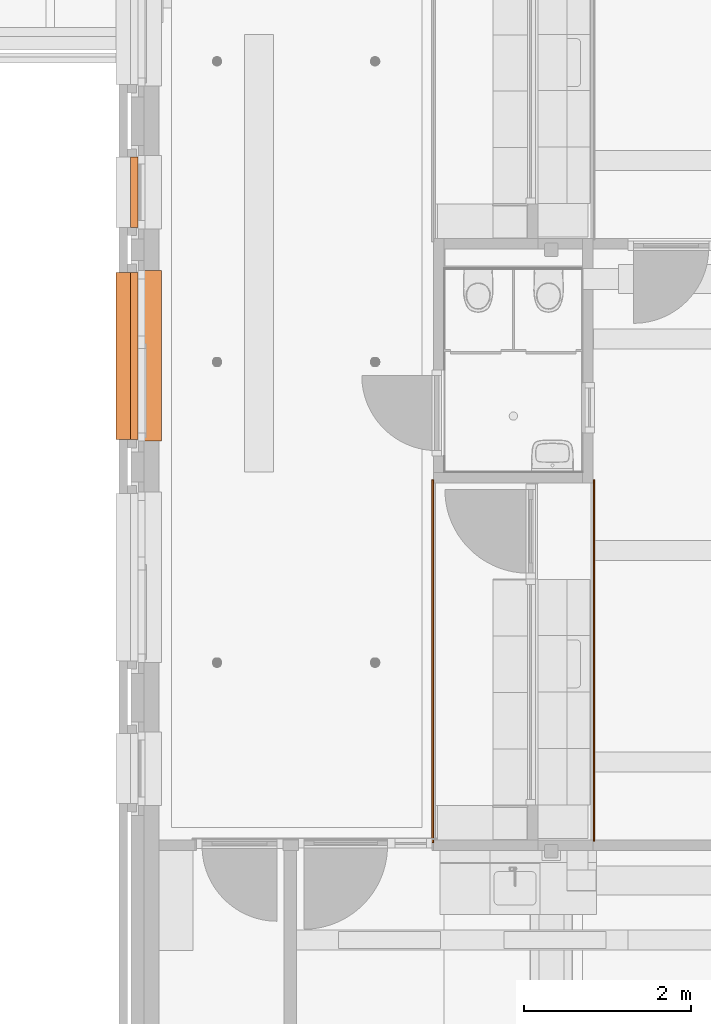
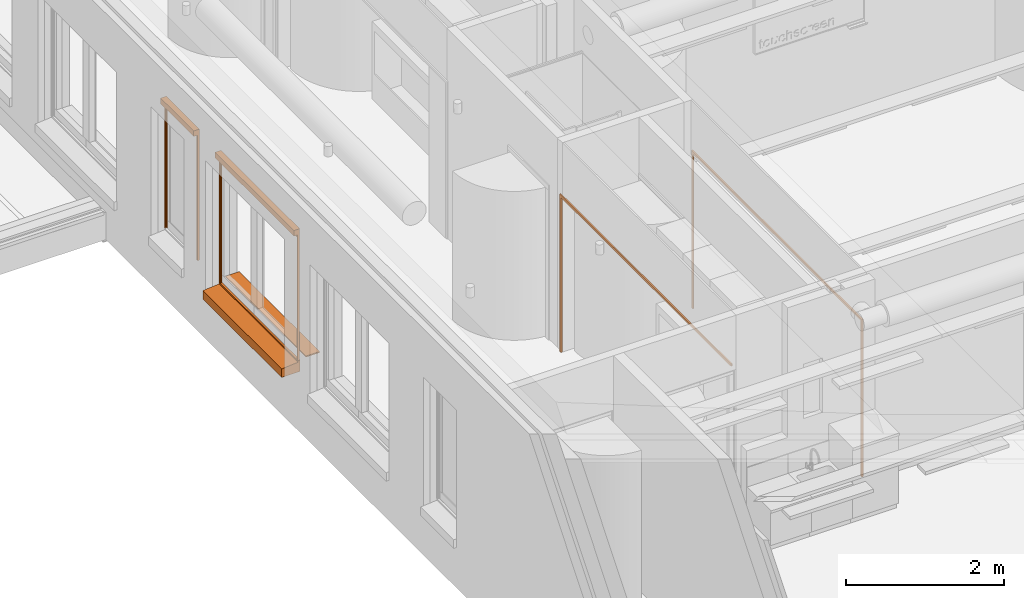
# One storey, part 99 of 128: 6 proxies.
"""IFC2X3 building model written with IfcOpenShell, lengths in millimetres."""

from ifc_helpers import new_model, entity, si_unit, converted_unit, derived_unit, direction, frame, frame_2d, origin, origin_2d_with_axis, place, context, subcontext, project, spatial, polyline, circle_curve, parameter, trimmed, segment, composite_curve, rectangle, outline, extrude, source, transform, mapped, material, material_list, type_object, type_shapes, element, save


model = new_model("IFC2X3")

# Units and contexts
model_context = context("Model", 3, precision=0.01, world=origin(), true_north=direction((6.123031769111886e-17, 1.0)))
body_context = subcontext(model_context, "Body", "Model", "MODEL_VIEW")
ifc_project = project(units=[si_unit("LENGTHUNIT", "METRE", prefix="MILLI"), si_unit("AREAUNIT", "SQUARE_METRE"), si_unit("VOLUMEUNIT", "CUBIC_METRE"), converted_unit("PLANEANGLEUNIT", "DEGREE", entity("IfcRatioMeasure", 0.017453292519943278), si_unit("PLANEANGLEUNIT", "RADIAN"), dimensions=[0, 0, 0, 0, 0, 0, 0]), si_unit("MASSUNIT", "GRAM", prefix="KILO"), derived_unit("MASSDENSITYUNIT", [(si_unit("MASSUNIT", "GRAM", prefix="KILO"), 1), (si_unit("LENGTHUNIT", "METRE"), -3)]), derived_unit("IONCONCENTRATIONUNIT", [(si_unit("MASSUNIT", "GRAM", prefix="KILO"), 1), (si_unit("LENGTHUNIT", "METRE"), -3)]), derived_unit("MOMENTOFINERTIAUNIT", [(si_unit("LENGTHUNIT", "METRE"), 4)]), si_unit("TIMEUNIT", "SECOND"), si_unit("FREQUENCYUNIT", "HERTZ"), si_unit("THERMODYNAMICTEMPERATUREUNIT", "DEGREE_CELSIUS"), derived_unit("THERMALTRANSMITTANCEUNIT", [(si_unit("MASSUNIT", "GRAM", prefix="KILO"), 1), (si_unit("THERMODYNAMICTEMPERATUREUNIT", "KELVIN"), -1), (si_unit("TIMEUNIT", "SECOND"), -3)]), derived_unit("THERMALCONDUCTANCEUNIT", [(si_unit("MASSUNIT", "GRAM", prefix="KILO"), 1), (si_unit("THERMODYNAMICTEMPERATUREUNIT", "KELVIN"), -1), (si_unit("TIMEUNIT", "SECOND"), -3), (si_unit("LENGTHUNIT", "METRE"), 1)]), derived_unit("VOLUMETRICFLOWRATEUNIT", [(si_unit("LENGTHUNIT", "METRE"), 3), (si_unit("TIMEUNIT", "SECOND"), -1)]), derived_unit("MASSFLOWRATEUNIT", [(si_unit("MASSUNIT", "GRAM", prefix="KILO"), 1), (si_unit("TIMEUNIT", "SECOND"), -1)]), derived_unit("ROTATIONALFREQUENCYUNIT", [(si_unit("TIMEUNIT", "SECOND"), -1)]), si_unit("ELECTRICCURRENTUNIT", "AMPERE"), si_unit("ELECTRICVOLTAGEUNIT", "VOLT"), si_unit("POWERUNIT", "WATT"), si_unit("FORCEUNIT", "NEWTON", prefix="KILO"), si_unit("ILLUMINANCEUNIT", "LUX"), si_unit("LUMINOUSFLUXUNIT", "LUMEN"), si_unit("LUMINOUSINTENSITYUNIT", "CANDELA"), derived_unit("USERDEFINED", [(si_unit("MASSUNIT", "GRAM", prefix="KILO"), -1), (si_unit("LENGTHUNIT", "METRE"), -2), (si_unit("TIMEUNIT", "SECOND"), 3), (si_unit("LUMINOUSFLUXUNIT", "LUMEN"), 1)]), derived_unit("USERDEFINED", [(si_unit("MASSUNIT", "GRAM", prefix="KILO"), 1), (si_unit("TIMEUNIT", "SECOND"), -3), (si_unit("LENGTHUNIT", "METRE"), 3), (si_unit("ELECTRICCURRENTUNIT", "AMPERE"), -2)]), derived_unit("SOUNDPOWERUNIT", [(si_unit("MASSUNIT", "GRAM", prefix="KILO"), 1), (si_unit("TIMEUNIT", "SECOND"), -3), (si_unit("LENGTHUNIT", "METRE"), 2)]), derived_unit("SOUNDPRESSUREUNIT", [(si_unit("MASSUNIT", "GRAM", prefix="KILO"), 1), (si_unit("LENGTHUNIT", "METRE"), -1), (si_unit("TIMEUNIT", "SECOND"), -2)]), derived_unit("LINEARVELOCITYUNIT", [(si_unit("LENGTHUNIT", "METRE"), 1), (si_unit("TIMEUNIT", "SECOND"), -1)]), si_unit("PRESSUREUNIT", "PASCAL"), derived_unit("USERDEFINED", [(si_unit("MASSUNIT", "GRAM", prefix="KILO"), 1), (si_unit("LENGTHUNIT", "METRE"), -2), (si_unit("TIMEUNIT", "SECOND"), -2)]), derived_unit("LINEARFORCEUNIT", [(si_unit("MASSUNIT", "GRAM", prefix="KILO"), 1), (si_unit("TIMEUNIT", "SECOND"), -2)]), derived_unit("PLANARFORCEUNIT", [(si_unit("MASSUNIT", "GRAM", prefix="KILO"), 1), (si_unit("LENGTHUNIT", "METRE"), -1), (si_unit("TIMEUNIT", "SECOND"), -2)]), derived_unit("SPECIFICHEATCAPACITYUNIT", [(si_unit("THERMODYNAMICTEMPERATUREUNIT", "KELVIN"), -1), (si_unit("LENGTHUNIT", "METRE"), 2), (si_unit("TIMEUNIT", "SECOND"), -2)]), derived_unit("HEATINGVALUEUNIT", [(si_unit("LENGTHUNIT", "METRE"), 2), (si_unit("TIMEUNIT", "SECOND"), -2)]), derived_unit("VAPORPERMEABILITYUNIT", [(si_unit("LENGTHUNIT", "METRE"), -1), (si_unit("TIMEUNIT", "SECOND"), 1)]), derived_unit("DYNAMICVISCOSITYUNIT", [(si_unit("MASSUNIT", "GRAM", prefix="KILO"), 1), (si_unit("TIMEUNIT", "SECOND"), -1), (si_unit("LENGTHUNIT", "METRE"), -1)]), derived_unit("THERMALEXPANSIONCOEFFICIENTUNIT", [(si_unit("THERMODYNAMICTEMPERATUREUNIT", "KELVIN"), -1)]), derived_unit("MODULUSOFELASTICITYUNIT", [(si_unit("MASSUNIT", "GRAM", prefix="KILO"), 1), (si_unit("LENGTHUNIT", "METRE"), -1), (si_unit("TIMEUNIT", "SECOND"), -2)]), derived_unit("ISOTHERMALMOISTURECAPACITYUNIT", [(si_unit("LENGTHUNIT", "METRE"), 3), (si_unit("MASSUNIT", "GRAM", prefix="KILO"), -1)]), derived_unit("MOISTUREDIFFUSIVITYUNIT", [(si_unit("TIMEUNIT", "SECOND"), -1), (si_unit("LENGTHUNIT", "METRE"), 2)])], contexts=[model_context])

# Site, building, storey
site_placement = place(None, frame((0.0, 300.0, 0.0)))
site = spatial("IfcSite", under=ifc_project, at=site_placement, Name="<Kadastrale nummers>", CompositionType="ELEMENT")
building_placement = place(site_placement, origin())
building = spatial("IfcBuilding", under=site, at=building_placement, CompositionType="ELEMENT")
storey_placement = place(building_placement, frame((0.0, 0.0, 3560.0000331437)))
storey = spatial("IfcBuildingStorey", under=building, at=storey_placement, Name="01 eerste verdieping", CompositionType="ELEMENT", Elevation=3560.0000331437)

# Proxies
ifc_material_1 = material(Name="ISR_Beton_prefab")
building_element_proxy_type_1 = type_object("IfcBuildingElementProxyType", Name="29_DAT_Prefab betonnen waterslag kort:29_DAT_Prefab betonnen waterslag kort", PredefinedType="NOTDEFINED", material=ifc_material_1)
shared_shape_1 = source(origin(), body_context, "Body", "SweptSolid", [
    extrude(outline(composite_curve([segment(polyline([(-137.5, -95.62465990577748), (-107.49999999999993, -95.62465990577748)]), True, "CONTINUOUS"), segment(polyline([(-107.49999999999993, -95.62465990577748), (-107.49999999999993, -73.62465990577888)]), True, "CONTINUOUS"), segment(polyline([(-107.49999999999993, -73.62465990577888), (132.50000000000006, -52.627380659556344)]), True, "CONTINUOUS"), segment(polyline([(132.5, -52.627380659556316), (132.5, 79.37534009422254)]), True, "CONTINUOUS"), segment(polyline([(132.5, 79.37534009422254), (117.49999999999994, 79.37534009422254)]), True, "CONTINUOUS"), segment(trimmed(circle_curve(frame_2d((112.49999999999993, 79.37534009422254), x_axis=(1.0, 0.0)), 5.000000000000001), [parameter(179.99999999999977)], [parameter(359.9999999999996)], True, "PARAMETER"), False, "CONTINUOUS"), segment(polyline([(107.49999999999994, 79.37534009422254), (-137.5, 79.37534009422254)]), True, "CONTINUOUS"), segment(polyline([(-137.5, 79.37534009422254), (-137.5, -95.62465990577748)]), True, "CONTINUOUS")], self_intersect=False)), frame((0.0, 82.50000000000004, -95.62465990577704), z_axis=(1.0, 0.0, 0.0), x_axis=(0.0, -1.0, 0.0)), (0.0, 0.0, 1.0), 2000.0000000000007),
])
type_shapes(building_element_proxy_type_1, [shared_shape_1])
proxy_1_placement = place(storey_placement, frame((36235.0, 16230.0, 890.0000018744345), z_axis=(0.0, 0.0, 1.0), x_axis=(0.0, -1.0, 0.0)))
element("IfcBuildingElementProxy", 1, at=proxy_1_placement, inside=storey, type_object=building_element_proxy_type_1, material=ifc_material_1, Name="29_DAT_Prefab betonnen waterslag kort:29_DAT_Prefab betonnen waterslag kort", ObjectType="29_DAT_Prefab betonnen waterslag kort:29_DAT_Prefab betonnen waterslag kort", context=body_context, shape_type="MappedRepresentation", body=[
    mapped(shared_shape_1, transform((0.0, 0.0, 0.0), scale=1.0)),
])
ifc_material_2 = material(Name="STAAL_RAL 7006")
ifc_material_3 = material(Name="<Unnamed>")
ifc_material_list = material_list([ifc_material_2, ifc_material_3])
building_element_proxy_type_2 = type_object("IfcBuildingElementProxyType", Name="31_DAT_Screen_zonwering_bak85:31_DAT_Screen_zonwering_bak85", PredefinedType="NOTDEFINED", material=ifc_material_list)
shared_shape_2 = source(origin(), body_context, "Body", "SweptSolid", [
    extrude(outline(polyline([(-53.573897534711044, -60.698648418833), (27.826102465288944, -60.698648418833), (27.826102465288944, 17.501351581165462), (24.626102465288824, 17.501351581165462), (24.626102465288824, 22.501351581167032), (1.1216926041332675, 22.501351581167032), (1.1216926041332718, 20.695945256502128), (-53.573897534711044, 20.695945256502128), (-53.573897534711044, -60.698648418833)])), frame((838.0, 29.62610246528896, 2772.501351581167), z_axis=(1.0, 0.0, 0.0), x_axis=(0.0, -1.0, 0.0)), (0.0, 0.0, 1.0), 1.9999999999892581),
    extrude(outline(polyline([(-51.082598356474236, -55.832432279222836), (33.91740164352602, -55.832432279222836), (33.91740164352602, 29.167567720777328), (28.91740164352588, 29.167567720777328), (28.91740164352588, 24.16756772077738), (32.117401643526, 24.16756772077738), (32.117401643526, -54.032432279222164), (-49.28259835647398, -54.032432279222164), (-49.28259835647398, 27.362161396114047), (5.41299178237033, 27.362161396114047), (5.41299178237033, 29.167567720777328), (-51.082598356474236, 29.167567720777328), (-51.082598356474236, -55.832432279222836)])), frame((0.0, 33.91740164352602, 2779.1675677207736), z_axis=(1.0, 0.0, 0.0), x_axis=(0.0, -1.0, 0.0)), (0.0, 0.0, 1.0), 839.9999999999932),
    extrude(outline(polyline([(-53.573897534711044, -60.698648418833), (27.826102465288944, -60.698648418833), (27.826102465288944, 17.501351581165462), (24.626102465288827, 17.501351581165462), (24.626102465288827, 22.501351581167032), (1.1216926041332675, 22.501351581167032), (1.1216926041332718, 20.695945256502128), (-53.573897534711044, 20.695945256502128), (-53.573897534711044, -60.698648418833)])), frame((0.0, 29.62610246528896, 2772.501351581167), z_axis=(1.0, 0.0, 0.0), x_axis=(0.0, -1.0, 0.0)), (0.0, 0.0, 1.0), 1.999999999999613),
    extrude(rectangle(XDim=1.163311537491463, YDim=800.0000000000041, at=frame_2d((2.1094237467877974e-15, 0.0), x_axis=(1.0, 0.0))), frame((420.0, 20.03729323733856, 2750.0), z_axis=(0.0, 0.0, 1.0), x_axis=(0.0, -1.0, 0.0)), (0.0, 0.0, 1.0), 47.3934410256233),
    extrude(outline(composite_curve([segment(trimmed(circle_curve(frame_2d((21.523758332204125, 7.502327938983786), x_axis=(1.0, 0.0)), 1.5000000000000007), [parameter(6.615553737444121e-13)], [parameter(90.00000000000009)], True, "PARAMETER"), True, "CONTINUOUS"), segment(polyline([(21.523758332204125, 9.00232793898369), (-8.97624166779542, 9.00232793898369)]), True, "CONTINUOUS"), segment(trimmed(circle_curve(frame_2d((-8.97624166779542, 6.00232793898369), x_axis=(1.0, 0.0)), 3.0), [parameter(90.00000000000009)], [parameter(172.8445490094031)], True, "PARAMETER"), True, "CONTINUOUS"), segment(polyline([(-11.952877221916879, 6.376013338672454), (-12.470504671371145, 2.2367466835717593)]), True, "CONTINUOUS"), segment(trimmed(circle_curve(frame_2d((-11.733933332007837, 2.1446362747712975), x_axis=(1.0, 0.0)), 0.7423083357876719), [parameter(172.87199730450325)], [parameter(320.7928857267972)], True, "PARAMETER"), True, "CONTINUOUS"), segment(trimmed(circle_curve(frame_2d((-8.97624166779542, 0.002327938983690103), x_axis=(1.0, 0.0)), 2.75), [parameter(218.21030001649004)], [parameter(142.52672013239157)], True, "PARAMETER"), False, "CONTINUOUS"), segment(trimmed(circle_curve(frame_2d((-11.733933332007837, -2.1399803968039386), x_axis=(1.0, 0.0)), 0.7423083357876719), [parameter(36.476465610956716)], [parameter(187.12800269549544)], True, "PARAMETER"), True, "CONTINUOUS"), segment(polyline([(-12.470504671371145, -2.2320908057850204), (-11.95287722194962, -6.3713574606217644)]), True, "CONTINUOUS"), segment(trimmed(circle_curve(frame_2d((-8.97624166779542, -5.9976720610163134), x_axis=(1.0, 0.0)), 3.0), [parameter(187.15545099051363)], [parameter(269.9999999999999)], True, "PARAMETER"), True, "CONTINUOUS"), segment(polyline([(-8.97624166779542, -8.997672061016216), (21.523758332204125, -8.997672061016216)]), True, "CONTINUOUS"), segment(trimmed(circle_curve(frame_2d((21.523758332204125, -7.497672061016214), x_axis=(1.0, 0.0)), 1.4999999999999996), [parameter(269.9999999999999)], [parameter(7.124442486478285e-13)], True, "PARAMETER"), True, "CONTINUOUS"), segment(polyline([(23.02375833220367, -7.4976720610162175), (23.02375833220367, 7.50232793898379)]), True, "CONTINUOUS")], self_intersect=False)), frame((20.0, 19.99767206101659, 2790.417199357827), z_axis=(1.0, 0.0, 0.0), x_axis=(0.0, 0.0, -1.0)), (0.0, 0.0, 1.0), 800.0000000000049),
    extrude(outline(polyline([(-16.231574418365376, -14.638298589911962), (13.768425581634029, -14.638298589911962), (13.768425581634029, 15.36170141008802), (-6.2315744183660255, 15.36170141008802), (-6.2315744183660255, 10.361701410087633), (-4.769580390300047, 10.361701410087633), (-4.769580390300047, 13.866111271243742), (12.23272922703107, 13.866111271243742), (12.23272922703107, -4.579546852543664), (-4.769580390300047, -4.579546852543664), (-4.769580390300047, -1.1166850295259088), (-6.231574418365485, -1.1166850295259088), (-6.231574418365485, -6.116685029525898), (12.232729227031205, -6.116685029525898), (12.232729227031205, -13.138298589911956), (-16.231574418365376, -13.138298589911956), (-16.231574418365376, -14.638298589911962)])), frame((826.2315744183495, 14.638298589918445, 810.0)), (0.0, 0.0, 1.0), 1940.0000000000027),
    extrude(outline(polyline([(-14.638298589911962, -16.231574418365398), (-13.13829858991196, -16.231574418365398), (-13.13829858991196, 12.232729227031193), (-6.116685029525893, 12.232729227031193), (-6.116685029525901, -6.231574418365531), (-1.116685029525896, -6.231574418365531), (-1.116685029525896, -4.769580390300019), (-4.579546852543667, -4.769580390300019), (-4.579546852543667, 12.2327292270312), (13.866111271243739, 12.2327292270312), (13.866111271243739, -4.769580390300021), (10.361701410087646, -4.769580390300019), (10.361701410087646, -6.231574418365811), (15.361701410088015, -6.231574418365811), (15.361701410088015, 13.76842558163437), (-14.638298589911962, 13.76842558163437), (-14.638298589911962, -16.231574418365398)])), frame((13.768425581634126, 14.638298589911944, 810.0), z_axis=(0.0, 0.0, 1.0), x_axis=(0.0, 1.0, 0.0)), (0.0, 0.0, 1.0), 1940.0000000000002),
])
type_shapes(building_element_proxy_type_2, [shared_shape_2])
proxy_2_placement = place(storey_placement, frame((36449.0, 16770.0, 90.00000187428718), z_axis=(0.0, 0.0, 1.0), x_axis=(0.0, 1.0, 0.0)))
element("IfcBuildingElementProxy", 2, at=proxy_2_placement, inside=storey, type_object=building_element_proxy_type_2, material=ifc_material_list, Name="31_DAT_Screen_zonwering_bak85:31_DAT_Screen_zonwering_bak85", ObjectType="31_DAT_Screen_zonwering_bak85:31_DAT_Screen_zonwering_bak85", context=body_context, shape_type="MappedRepresentation", body=[
    mapped(shared_shape_2, transform((0.0, 0.0, 0.0), scale=1.0)),
])
building_element_proxy_type_3 = type_object("IfcBuildingElementProxyType", Name="31_DAT_Screen_zonwering_bak85:31_DAT_Screen_zonwering_bak85", PredefinedType="NOTDEFINED", material=ifc_material_list)
shared_shape_3 = source(origin(), body_context, "Body", "SweptSolid", [
    extrude(outline(polyline([(-60.69864841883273, -53.573897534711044), (20.695945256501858, -53.573897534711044), (20.695945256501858, 1.1216926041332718), (22.501351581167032, 1.1216926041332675), (22.501351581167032, 24.626102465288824), (17.501351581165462, 24.626102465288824), (17.501351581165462, 27.826102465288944), (-60.69864841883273, 27.826102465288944), (-60.69864841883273, -53.573897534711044)])), frame((1998.0, -29.62610246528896, 2422.501351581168), z_axis=(1.0, 0.0, 0.0), x_axis=(0.0, 0.0, -1.0)), (0.0, 0.0, 1.0), 1.9999999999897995),
    extrude(outline(polyline([(-55.83243227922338, -51.08259835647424), (29.167567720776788, -51.08259835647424), (29.167567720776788, 5.412991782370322), (27.362161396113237, 5.412991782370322), (27.362161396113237, -49.28259835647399), (-54.032432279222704, -49.28259835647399), (-54.032432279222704, 32.117401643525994), (24.16756772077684, 32.117401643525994), (24.16756772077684, 28.91740164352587), (29.167567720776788, 28.91740164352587), (29.167567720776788, 33.917401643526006), (-55.83243227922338, 33.917401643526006), (-55.83243227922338, -51.08259835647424)])), frame((0.0, -33.917401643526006, 2429.1675677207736), z_axis=(1.0, 0.0, 0.0), x_axis=(0.0, 0.0, -1.0)), (0.0, 0.0, 1.0), 1999.999999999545),
    extrude(outline(polyline([(-60.69864841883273, -53.573897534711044), (20.695945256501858, -53.573897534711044), (20.695945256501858, 1.1216926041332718), (22.501351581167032, 1.1216926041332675), (22.501351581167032, 24.626102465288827), (17.501351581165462, 24.626102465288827), (17.501351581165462, 27.826102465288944), (-60.69864841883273, 27.826102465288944), (-60.69864841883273, -53.573897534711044)])), frame((0.0, -29.62610246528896, 2422.501351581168), z_axis=(1.0, 0.0, 0.0), x_axis=(0.0, 0.0, -1.0)), (0.0, 0.0, 1.0), 1.999999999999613),
    extrude(rectangle(XDim=1959.9999999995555, YDim=1.163311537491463, at=frame_2d((0.0, -2.1094237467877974e-15), x_axis=(1.0, 0.0))), frame((1000.0, -20.037293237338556, 2382.3606486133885)), (0.0, 0.0, 1.0), 17.639351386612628),
    extrude(outline(composite_curve([segment(polyline([(-7.5023279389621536, -23.023758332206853), (7.4976720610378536, -23.023758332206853)]), True, "CONTINUOUS"), segment(trimmed(circle_curve(frame_2d((7.49767206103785, -21.523758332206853), x_axis=(0.0, -1.0)), 1.4999999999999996), [parameter(359.99999999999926)], [parameter(90.00000000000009)], True, "PARAMETER"), True, "CONTINUOUS"), segment(polyline([(8.997672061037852, -21.523758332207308), (8.997672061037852, 8.976241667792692)]), True, "CONTINUOUS"), segment(trimmed(circle_curve(frame_2d((5.9976720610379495, 8.976241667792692), x_axis=(0.0, -1.0)), 3.0), [parameter(90.00000000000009)], [parameter(172.84454900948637)], True, "PARAMETER"), True, "CONTINUOUS"), segment(polyline([(6.3713574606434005, 11.952877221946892), (2.2320908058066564, 12.470504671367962)]), True, "CONTINUOUS"), segment(trimmed(circle_curve(frame_2d((2.1399803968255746, 11.733933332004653), x_axis=(0.0, -1.0)), 0.7423083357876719), [parameter(172.87199730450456)], [parameter(323.5235343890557)], True, "PARAMETER"), True, "CONTINUOUS"), segment(trimmed(circle_curve(frame_2d((-0.002327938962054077, 8.976241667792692), x_axis=(0.0, -1.0)), 2.75), [parameter(217.47327986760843)], [parameter(141.78969998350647)], True, "PARAMETER"), False, "CONTINUOUS"), segment(trimmed(circle_curve(frame_2d((-2.1446362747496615, 11.733933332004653), x_axis=(0.0, -1.0)), 0.7423083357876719), [parameter(39.207114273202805)], [parameter(187.12800269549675)], True, "PARAMETER"), True, "CONTINUOUS"), segment(polyline([(-2.2367466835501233, 12.470504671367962), (-6.376013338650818, 11.952877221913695)]), True, "CONTINUOUS"), segment(trimmed(circle_curve(frame_2d((-6.002327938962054, 8.976241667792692), x_axis=(0.0, -1.0)), 3.0), [parameter(187.1554509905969)], [parameter(269.9999999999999)], True, "PARAMETER"), True, "CONTINUOUS"), segment(polyline([(-9.002327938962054, 8.976241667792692), (-9.002327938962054, -21.523758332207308)]), True, "CONTINUOUS"), segment(trimmed(circle_curve(frame_2d((-7.50232793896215, -21.523758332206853), x_axis=(0.0, -1.0)), 1.5000000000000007), [parameter(269.9999999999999)], [parameter(359.9999999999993)], True, "PARAMETER"), True, "CONTINUOUS")], self_intersect=False)), frame((20.0, -19.997672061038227, 2375.3844069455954), z_axis=(1.0, 0.0, 0.0), x_axis=(0.0, 1.0, 0.0)), (0.0, 0.0, 1.0), 1959.999999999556),
    extrude(outline(polyline([(-14.638298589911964, -16.231574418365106), (-13.138298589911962, -16.231574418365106), (-13.138298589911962, 12.23272922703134), (-6.116685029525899, 12.23272922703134), (-6.116685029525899, -6.231574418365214), (-1.116685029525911, -6.231574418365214), (-1.116685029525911, -4.769580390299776), (-4.579546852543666, -4.769580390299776), (-4.579546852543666, 12.23272922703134), (13.86611127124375, 12.23272922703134), (13.86611127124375, -4.769580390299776), (10.36170141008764, -4.769580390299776), (10.36170141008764, -6.2315744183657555), (15.36170141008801, -6.2315744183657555), (15.36170141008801, 13.7684255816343), (-14.638298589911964, 13.7684255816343), (-14.638298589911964, -16.231574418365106)])), frame((1986.2315744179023, -14.638298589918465, 450.0), z_axis=(0.0, 0.0, 1.0), x_axis=(0.0, -1.0, 0.0)), (0.0, 0.0, 1.0), 1950.0000000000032),
    extrude(outline(polyline([(-16.231574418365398, -14.638298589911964), (13.768425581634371, -14.638298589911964), (13.76842558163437, 15.361701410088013), (-6.231574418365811, 15.361701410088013), (-6.231574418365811, 10.361701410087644), (-4.769580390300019, 10.361701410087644), (-4.769580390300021, 13.866111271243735), (12.2327292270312, 13.866111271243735), (12.2327292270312, -4.57954685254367), (-4.769580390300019, -4.57954685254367), (-4.769580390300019, -1.1166850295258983), (-6.231574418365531, -1.1166850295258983), (-6.231574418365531, -6.116685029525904), (12.232729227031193, -6.116685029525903), (12.232729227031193, -13.138298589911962), (-16.231574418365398, -13.138298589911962), (-16.231574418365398, -14.638298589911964)])), frame((13.768425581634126, -14.638298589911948, 450.0), z_axis=(0.0, 0.0, 1.0), x_axis=(-1.0, 0.0, 0.0)), (0.0, 0.0, 1.0), 1950.0000000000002),
])
type_shapes(building_element_proxy_type_3, [shared_shape_3])
proxy_3_placement = place(storey_placement, frame((36448.99862327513, 16230.0, 440.0000018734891), z_axis=(0.0, 0.0, 1.0), x_axis=(0.0, -1.0, 0.0)))
element("IfcBuildingElementProxy", 3, at=proxy_3_placement, inside=storey, type_object=building_element_proxy_type_3, material=ifc_material_list, Name="31_DAT_Screen_zonwering_bak85:31_DAT_Screen_zonwering_bak85", ObjectType="31_DAT_Screen_zonwering_bak85:31_DAT_Screen_zonwering_bak85", context=body_context, shape_type="MappedRepresentation", body=[
    mapped(shared_shape_3, transform((0.0, 0.0, 0.0), scale=1.0)),
])
ifc_material_4 = material(Name="e1_natuursteen")
building_element_proxy_type_4 = type_object("IfcBuildingElementProxyType", Name="NLRS_31_GM_WPB_vensterbank natuursteen -SH_gen_ASN:200x18", PredefinedType="USERDEFINED", material=ifc_material_4)
shared_shape_4 = source(origin(), body_context, "Body", "SweptSolid", [
    extrude(rectangle(XDim=200.0, YDim=2040.0000000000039, at=origin_2d_with_axis()), frame((0.0, -100.0, 0.0), z_axis=(0.0, 0.0, 1.0), x_axis=(0.0, -1.0, 0.0)), (0.0, 0.0, 1.0), 17.999999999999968),
])
type_shapes(building_element_proxy_type_4, [shared_shape_4])
proxy_4_placement = place(storey_placement, frame((36530.0, 15230.0, 920.0000018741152), z_axis=(0.0, 0.0, 1.0), x_axis=(0.0, 1.0, 0.0)))
element("IfcBuildingElementProxy", 4, at=proxy_4_placement, inside=storey, type_object=building_element_proxy_type_4, material=ifc_material_4, Name="NLRS_31_GM_WPB_vensterbank natuursteen -SH_gen_ASN:200x18", ObjectType="NLRS_31_GM_WPB_vensterbank natuursteen -SH_gen_ASN:200x18", context=body_context, shape_type="MappedRepresentation", body=[
    mapped(shared_shape_4, transform((0.0, 0.0, 0.0), scale=1.0)),
])

# Space
space_1_placement = place(storey_placement, origin())
space_1 = spatial("IfcSpace", under=storey, at=space_1_placement, Name="1.20", CompositionType="ELEMENT", InteriorOrExteriorSpace="INTERNAL")

# Proxy
ifc_material_5 = material(Name="ISR_HPL Kleur hout")
building_element_proxy_type_5 = type_object("IfcBuildingElementProxyType", Name="82_DAT_Trimlat om element:82_DAT_Trimlat om element", PredefinedType="NOTDEFINED", material=ifc_material_5)
shared_shape_5 = source(origin(), body_context, "Body", "SweptSolid", [
    extrude(rectangle(XDim=19.999999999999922, YDim=34.99999999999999, at=origin_2d_with_axis()), frame((-17.500000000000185, -10.0, 0.0), z_axis=(0.0, 0.0, 1.0), x_axis=(0.0, 1.0, 0.0)), (0.0, 0.0, 1.0), 2400.000000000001),
    extrude(rectangle(XDim=19.99999999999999, YDim=4344.999999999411, at=frame_2d((0.0, -2.2737367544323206e-13), x_axis=(1.0, 0.0))), frame((2137.499999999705, -10.0, 2400.0), z_axis=(0.0, 0.0, 1.0), x_axis=(0.0, 1.0, 0.0)), (0.0, 0.0, 1.0), 34.99999999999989),
])
type_shapes(building_element_proxy_type_5, [shared_shape_5])
proxy_5_placement = place(space_1_placement, frame((39989.993398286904, 13709.998623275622, 90.00000187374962), z_axis=(0.0, 0.0, 1.0), x_axis=(0.0, -1.0, 0.0)))
element("IfcBuildingElementProxy", 5, at=proxy_5_placement, inside=space_1, type_object=building_element_proxy_type_5, material=ifc_material_5, Name="82_DAT_Trimlat om element:82_DAT_Trimlat om element", ObjectType="82_DAT_Trimlat om element:82_DAT_Trimlat om element", context=body_context, shape_type="MappedRepresentation", body=[
    mapped(shared_shape_5, transform((0.0, 0.0, 0.0), scale=1.0)),
])

# Space
space_2_placement = place(storey_placement, origin())
space_2 = spatial("IfcSpace", under=storey, at=space_2_placement, Name="1.23", CompositionType="ELEMENT", InteriorOrExteriorSpace="INTERNAL")

# Proxy
building_element_proxy_type_6 = type_object("IfcBuildingElementProxyType", Name="82_DAT_Trimlat om element:82_DAT_Trimlat om element", PredefinedType="NOTDEFINED", material=ifc_material_5)
shared_shape_6 = source(origin(), body_context, "Body", "SweptSolid", [
    extrude(rectangle(XDim=35.0, YDim=19.999999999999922, at=frame_2d((-1.7763568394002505e-15, 0.0), x_axis=(1.0, 0.0))), frame((-17.500000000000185, 10.0, 0.0), z_axis=(0.0, 0.0, 1.0), x_axis=(-1.0, 0.0, 0.0)), (0.0, 0.0, 1.0), 2400.000000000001),
    extrude(rectangle(XDim=34.99999999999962, YDim=20.000000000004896, at=origin_2d_with_axis()), frame((4272.499999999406, 10.0, 0.0), z_axis=(0.0, 0.0, 1.0), x_axis=(-1.0, 0.0, 0.0)), (0.0, 0.0, 1.0), 2400.000000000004),
    extrude(rectangle(XDim=4324.999999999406, YDim=19.99999999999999, at=origin_2d_with_axis()), frame((2127.499999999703, 10.0, 2400.0), z_axis=(0.0, 0.0, 1.0), x_axis=(-1.0, 0.0, 0.0)), (0.0, 0.0, 1.0), 34.99999999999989),
])
type_shapes(building_element_proxy_type_6, [shared_shape_6])
proxy_6_placement = place(space_2_placement, frame((41899.99339828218, 13709.998623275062, 90.00000187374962), z_axis=(0.0, 0.0, 1.0), x_axis=(0.0, -1.0, 0.0)))
element("IfcBuildingElementProxy", 6, at=proxy_6_placement, inside=space_2, type_object=building_element_proxy_type_6, material=ifc_material_5, Name="82_DAT_Trimlat om element:82_DAT_Trimlat om element", ObjectType="82_DAT_Trimlat om element:82_DAT_Trimlat om element", context=body_context, shape_type="MappedRepresentation", body=[
    mapped(shared_shape_6, transform((0.0, 0.0, 0.0), scale=1.0)),
])

save(model, "model.ifc")
